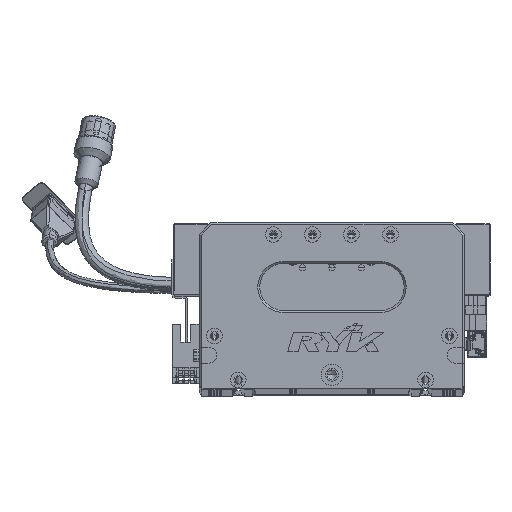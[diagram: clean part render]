
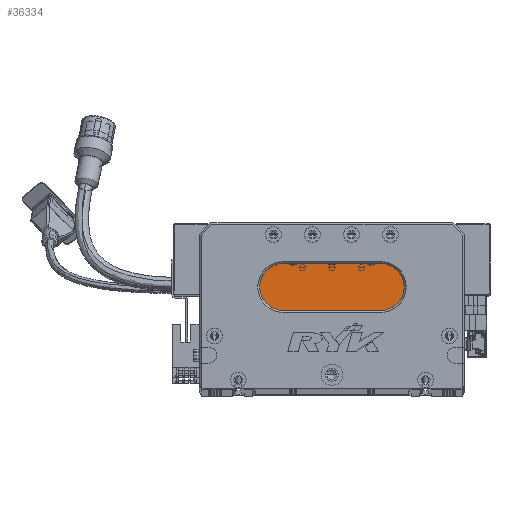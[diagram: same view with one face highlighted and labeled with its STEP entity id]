
A CAD part, top view. The second image highlights one B-rep face of the part: STEP entity #36334.
In plain terms, the highlighted planar face has unit normal (0, 0, 1) as drawn and (0, 0, -1) by its records, which use the part's own axes.
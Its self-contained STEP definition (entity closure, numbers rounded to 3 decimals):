
#425 = VERTEX_POINT ( 'NONE', #4591 ) ;
#4591 = CARTESIAN_POINT ( 'NONE',  ( 93., 40., 13. ) ) ;
#6277 = VECTOR ( 'NONE', #51607, 1000. ) ;
#12780 = VERTEX_POINT ( 'NONE', #34737 ) ;
#13102 = EDGE_CURVE ( 'NONE', #19599, #425, #27044, .T. ) ;
#14471 = CARTESIAN_POINT ( 'NONE',  ( 43., 52., 13. ) ) ;
#15600 = DIRECTION ( 'NONE',  ( -1., 0., 0. ) ) ;
#17019 = VECTOR ( 'NONE', #22906, 1000. ) ;
#18760 = EDGE_CURVE ( 'NONE', #68789, #33898, #52275, .T. ) ;
#19599 = VERTEX_POINT ( 'NONE', #68861 ) ;
#21065 = DIRECTION ( 'NONE',  ( -1., 0., 0. ) ) ;
#22906 = DIRECTION ( 'NONE',  ( 1., 0., 0. ) ) ;
#23077 = EDGE_CURVE ( 'NONE', #33898, #19599, #68643, .T. ) ;
#23246 = FACE_OUTER_BOUND ( 'NONE', #75602, .T. ) ;
#27044 = CIRCLE ( 'NONE', #53112, 12. ) ;
#33898 = VERTEX_POINT ( 'NONE', #57684 ) ;
#34317 = DIRECTION ( 'NONE',  ( 0., 0., -1. ) ) ;
#34737 = CARTESIAN_POINT ( 'NONE',  ( 43., 40., 13. ) ) ;
#36334 = ADVANCED_FACE ( 'NONE', ( #23246 ), #101513, .T. ) ;
#38321 = EDGE_CURVE ( 'NONE', #12780, #68789, #79283, .T. ) ;
#38623 = AXIS2_PLACEMENT_3D ( 'NONE', #49787, #76046, #93465 ) ;
#40339 = ORIENTED_EDGE ( 'NONE', *, *, #23077, .T. ) ;
#42636 = CARTESIAN_POINT ( 'NONE',  ( 43., 52., 13. ) ) ;
#46803 = DIRECTION ( 'NONE',  ( 0., 0., -1. ) ) ;
#49787 = CARTESIAN_POINT ( 'NONE',  ( 93., 52., 13. ) ) ;
#51607 = DIRECTION ( 'NONE',  ( -1., 0., 0. ) ) ;
#52275 = CIRCLE ( 'NONE', #107462, 12. ) ;
#53112 = AXIS2_PLACEMENT_3D ( 'NONE', #89737, #46803, #21065 ) ;
#57684 = CARTESIAN_POINT ( 'NONE',  ( 43., 64., 13. ) ) ;
#58127 = CARTESIAN_POINT ( 'NONE',  ( 93., 64., 13. ) ) ;
#58945 = CARTESIAN_POINT ( 'NONE',  ( 31., 52., 13. ) ) ;
#60105 = DIRECTION ( 'NONE',  ( -1., 0., 0. ) ) ;
#65974 = LINE ( 'NONE', #78259, #6277 ) ;
#67558 = DIRECTION ( 'NONE',  ( 0., 0., -1. ) ) ;
#68643 = LINE ( 'NONE', #58127, #17019 ) ;
#68789 = VERTEX_POINT ( 'NONE', #58945 ) ;
#68861 = CARTESIAN_POINT ( 'NONE',  ( 93., 64., 13. ) ) ;
#72261 = AXIS2_PLACEMENT_3D ( 'NONE', #14471, #67558, #15600 ) ;
#75602 = EDGE_LOOP ( 'NONE', ( #88883, #100154, #99522, #101886, #40339 ) ) ;
#76046 = DIRECTION ( 'NONE',  ( 0., 0., -1. ) ) ;
#78259 = CARTESIAN_POINT ( 'NONE',  ( 93., 40., 13. ) ) ;
#79283 = CIRCLE ( 'NONE', #72261, 12. ) ;
#88883 = ORIENTED_EDGE ( 'NONE', *, *, #13102, .T. ) ;
#89737 = CARTESIAN_POINT ( 'NONE',  ( 93., 52., 13. ) ) ;
#93465 = DIRECTION ( 'NONE',  ( -1., 0., 0. ) ) ;
#95738 = EDGE_CURVE ( 'NONE', #425, #12780, #65974, .T. ) ;
#99522 = ORIENTED_EDGE ( 'NONE', *, *, #38321, .T. ) ;
#100154 = ORIENTED_EDGE ( 'NONE', *, *, #95738, .T. ) ;
#101513 = PLANE ( 'NONE',  #38623 ) ;
#101886 = ORIENTED_EDGE ( 'NONE', *, *, #18760, .T. ) ;
#107462 = AXIS2_PLACEMENT_3D ( 'NONE', #42636, #34317, #60105 ) ;
